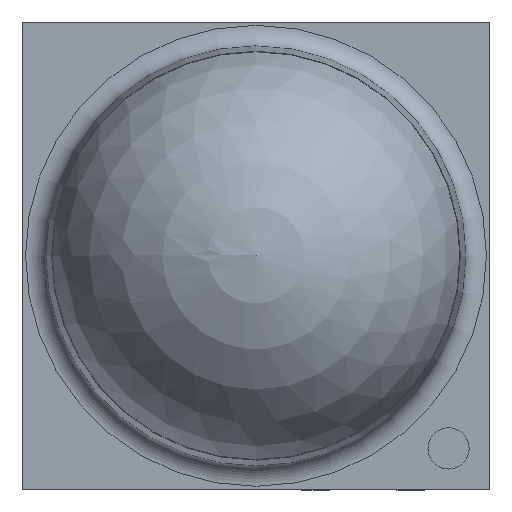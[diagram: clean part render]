
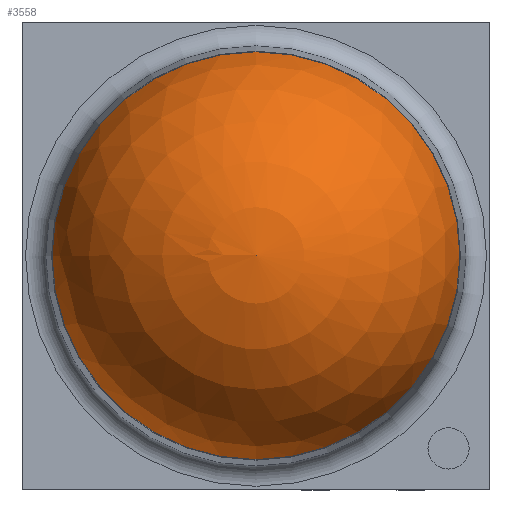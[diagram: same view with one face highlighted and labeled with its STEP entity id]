
A CAD part, top view. The second image highlights one B-rep face of the part: STEP entity #3558.
In plain terms, the highlighted spherical face has radius 1.5 mm.
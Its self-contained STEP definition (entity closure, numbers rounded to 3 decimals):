
#73=SPHERICAL_SURFACE('',#3805,1.5);
#242=CIRCLE('',#3806,1.482);
#243=CIRCLE('',#3807,1.5);
#311=FACE_OUTER_BOUND('',#528,.T.);
#528=EDGE_LOOP('',(#2592,#2593,#2594));
#1633=VERTEX_POINT('',#5281);
#1634=VERTEX_POINT('',#5283);
#2017=EDGE_CURVE('',#1633,#1633,#242,.T.);
#2018=EDGE_CURVE('',#1634,#1633,#243,.T.);
#2592=ORIENTED_EDGE('',*,*,#2017,.F.);
#2593=ORIENTED_EDGE('',*,*,#2018,.F.);
#2594=ORIENTED_EDGE('',*,*,#2018,.T.);
#3558=ADVANCED_FACE('',(#311),#73,.T.);
#3805=AXIS2_PLACEMENT_3D('',#5280,#4239,#4240);
#3806=AXIS2_PLACEMENT_3D('',#5282,#4241,#4242);
#3807=AXIS2_PLACEMENT_3D('',#5284,#4243,#4244);
#4239=DIRECTION('center_axis',(0.,0.,1.));
#4240=DIRECTION('ref_axis',(1.,0.,0.));
#4241=DIRECTION('center_axis',(0.,0.,-1.));
#4242=DIRECTION('ref_axis',(-1.,0.,0.));
#4243=DIRECTION('center_axis',(0.,-1.,0.));
#4244=DIRECTION('ref_axis',(-1.,0.,0.));
#5280=CARTESIAN_POINT('Origin',(0.,0.,0.395));
#5281=CARTESIAN_POINT('',(-1.482,0.,0.626));
#5282=CARTESIAN_POINT('Origin',(0.,0.,0.626));
#5283=CARTESIAN_POINT('',(0.,0.,1.895));
#5284=CARTESIAN_POINT('Origin',(0.,0.,0.395));
